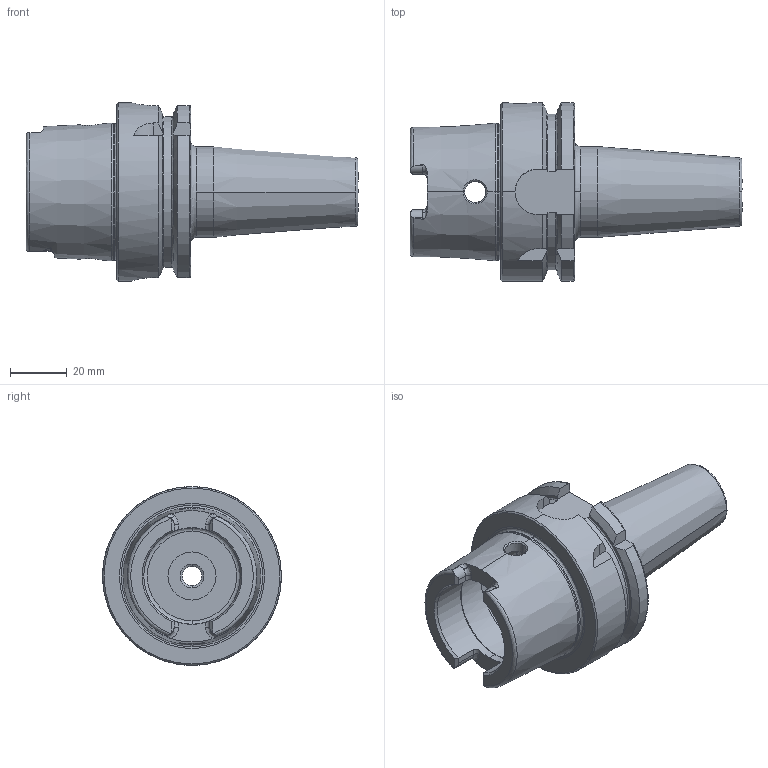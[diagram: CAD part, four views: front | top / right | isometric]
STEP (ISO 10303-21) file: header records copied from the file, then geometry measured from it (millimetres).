
FILE_DESCRIPTION (( 'STEP AP214' ), '1' );
FILE_NAME ('04-0484.STEP', '2021-08-03T18:58:33', ( '' ), ( '' ), 'SwSTEP 2.0', 'SolidWorks 2020', '' );
FILE_SCHEMA (( 'AUTOMOTIVE_DESIGN' ));
Length unit declared in the file: inch
Products named in the file (1): 04-0484
Bounding box: 117 x 63 x 63 mm (x, y, z)
Volume: 115883.6 mm3; surface area: 28780.2 mm2
Topology: 1 solids, 1 shells, 153 faces, 409 edges, 260 vertices
Faces by surface type: cylinder 49, bspline 41, plane 41, cone 22
Entity records: 8339 total; most frequent: CARTESIAN_POINT 4772, ORIENTED_EDGE 818, DIRECTION 656, EDGE_CURVE 409, AXIS2_PLACEMENT_3D 264, VERTEX_POINT 260, EDGE_LOOP 161, ADVANCED_FACE 153
